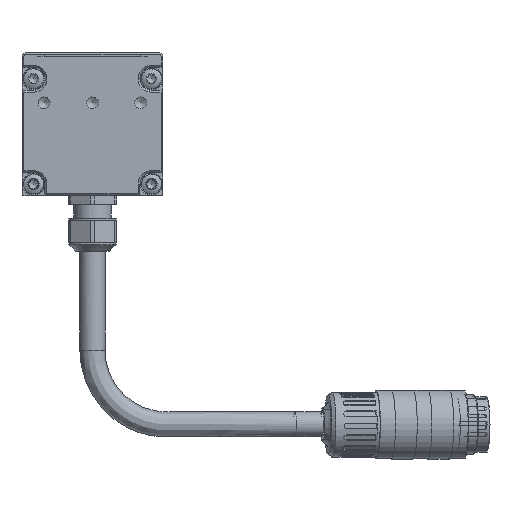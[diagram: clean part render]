
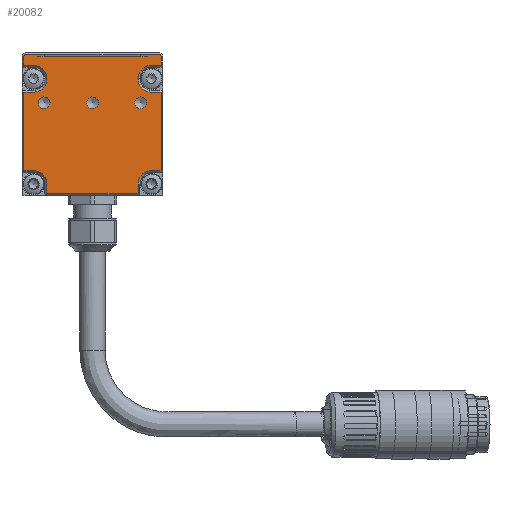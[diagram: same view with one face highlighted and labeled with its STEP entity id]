
A CAD part, left-side view. The second image highlights one B-rep face of the part: STEP entity #20082.
In plain terms, the highlighted planar face has unit normal (-1, 0, 0).
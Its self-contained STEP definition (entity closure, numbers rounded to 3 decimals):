
#880=LINE('',#27913,#1882);
#882=LINE('',#27917,#1884);
#886=LINE('',#27925,#1888);
#889=LINE('',#27931,#1891);
#891=LINE('',#27936,#1893);
#895=LINE('',#27944,#1897);
#897=LINE('',#27948,#1899);
#901=LINE('',#27957,#1903);
#903=LINE('',#27962,#1905);
#906=LINE('',#27970,#1908);
#909=LINE('',#27976,#1911);
#912=LINE('',#27984,#1914);
#916=LINE('',#27992,#1918);
#919=LINE('',#27999,#1921);
#1882=VECTOR('',#23214,1000.);
#1884=VECTOR('',#23218,1000.);
#1888=VECTOR('',#23224,1000.);
#1891=VECTOR('',#23229,1000.);
#1893=VECTOR('',#23235,1000.);
#1897=VECTOR('',#23241,1000.);
#1899=VECTOR('',#23247,1000.);
#1903=VECTOR('',#23257,1000.);
#1905=VECTOR('',#23265,1000.);
#1908=VECTOR('',#23274,1000.);
#1911=VECTOR('',#23283,1000.);
#1914=VECTOR('',#23292,1000.);
#1918=VECTOR('',#23302,1000.);
#1921=VECTOR('',#23311,1000.);
#2682=PLANE('',#21147);
#3923=ORIENTED_EDGE('',*,*,#7674,.T.);
#3924=ORIENTED_EDGE('',*,*,#7675,.T.);
#3925=ORIENTED_EDGE('',*,*,#7676,.T.);
#3926=ORIENTED_EDGE('',*,*,#7648,.T.);
#3927=ORIENTED_EDGE('',*,*,#7645,.T.);
#3928=ORIENTED_EDGE('',*,*,#7639,.T.);
#3929=ORIENTED_EDGE('',*,*,#7656,.T.);
#3930=ORIENTED_EDGE('',*,*,#7654,.T.);
#3931=ORIENTED_EDGE('',*,*,#7652,.T.);
#3932=ORIENTED_EDGE('',*,*,#7630,.T.);
#3933=ORIENTED_EDGE('',*,*,#7663,.T.);
#3934=ORIENTED_EDGE('',*,*,#7661,.T.);
#3935=ORIENTED_EDGE('',*,*,#7659,.T.);
#3936=ORIENTED_EDGE('',*,*,#7628,.T.);
#3937=ORIENTED_EDGE('',*,*,#7673,.F.);
#3938=ORIENTED_EDGE('',*,*,#7643,.T.);
#3939=ORIENTED_EDGE('',*,*,#7672,.F.);
#3940=ORIENTED_EDGE('',*,*,#7637,.T.);
#3941=ORIENTED_EDGE('',*,*,#7671,.T.);
#3942=ORIENTED_EDGE('',*,*,#7669,.T.);
#3943=ORIENTED_EDGE('',*,*,#7667,.T.);
#3944=ORIENTED_EDGE('',*,*,#7634,.T.);
#3945=ORIENTED_EDGE('',*,*,#7650,.T.);
#7628=EDGE_CURVE('',#9566,#9567,#880,.T.);
#7630=EDGE_CURVE('',#9569,#9568,#882,.T.);
#7634=EDGE_CURVE('',#9570,#9571,#886,.T.);
#7637=EDGE_CURVE('',#9572,#9573,#889,.T.);
#7639=EDGE_CURVE('',#9575,#9574,#891,.T.);
#7643=EDGE_CURVE('',#9576,#9577,#895,.T.);
#7645=EDGE_CURVE('',#9578,#9575,#897,.T.);
#7648=EDGE_CURVE('',#9579,#9578,#10697,.T.);
#7650=EDGE_CURVE('',#9571,#9579,#901,.T.);
#7652=EDGE_CURVE('',#9580,#9569,#903,.T.);
#7654=EDGE_CURVE('',#9581,#9580,#10698,.T.);
#7656=EDGE_CURVE('',#9574,#9581,#906,.T.);
#7659=EDGE_CURVE('',#9582,#9566,#909,.T.);
#7661=EDGE_CURVE('',#9583,#9582,#10699,.T.);
#7663=EDGE_CURVE('',#9568,#9583,#912,.T.);
#7667=EDGE_CURVE('',#9584,#9570,#916,.T.);
#7669=EDGE_CURVE('',#9585,#9584,#10700,.T.);
#7671=EDGE_CURVE('',#9573,#9585,#919,.T.);
#7672=EDGE_CURVE('',#9572,#9577,#10701,.T.);
#7673=EDGE_CURVE('',#9576,#9567,#10702,.T.);
#7674=EDGE_CURVE('',#9586,#9586,#10703,.T.);
#7675=EDGE_CURVE('',#9587,#9587,#10704,.T.);
#7676=EDGE_CURVE('',#9588,#9588,#10705,.T.);
#9566=VERTEX_POINT('',#27910);
#9567=VERTEX_POINT('',#27912);
#9568=VERTEX_POINT('',#27916);
#9569=VERTEX_POINT('',#27918);
#9570=VERTEX_POINT('',#27922);
#9571=VERTEX_POINT('',#27924);
#9572=VERTEX_POINT('',#27928);
#9573=VERTEX_POINT('',#27930);
#9574=VERTEX_POINT('',#27935);
#9575=VERTEX_POINT('',#27937);
#9576=VERTEX_POINT('',#27941);
#9577=VERTEX_POINT('',#27943);
#9578=VERTEX_POINT('',#27949);
#9579=VERTEX_POINT('',#27953);
#9580=VERTEX_POINT('',#27963);
#9581=VERTEX_POINT('',#27967);
#9582=VERTEX_POINT('',#27977);
#9583=VERTEX_POINT('',#27981);
#9584=VERTEX_POINT('',#27991);
#9585=VERTEX_POINT('',#27995);
#9586=VERTEX_POINT('',#28007);
#9587=VERTEX_POINT('',#28009);
#9588=VERTEX_POINT('',#28011);
#10697=CIRCLE('',#21122,3.6);
#10698=CIRCLE('',#21128,3.6);
#10699=CIRCLE('',#21134,3.6);
#10700=CIRCLE('',#21140,3.6);
#10701=CIRCLE('',#21144,0.5);
#10702=CIRCLE('',#21146,0.5);
#10703=CIRCLE('',#21148,1.621);
#10704=CIRCLE('',#21149,1.621);
#10705=CIRCLE('',#21150,1.621);
#11388=EDGE_LOOP('',(#3923));
#11389=EDGE_LOOP('',(#3924));
#11390=EDGE_LOOP('',(#3925));
#11391=EDGE_LOOP('',(#3926,#3927,#3928,#3929,#3930,#3931,#3932,#3933,#3934,
#3935,#3936,#3937,#3938,#3939,#3940,#3941,#3942,#3943,#3944,#3945));
#12478=FACE_BOUND('',#11388,.T.);
#12479=FACE_BOUND('',#11389,.T.);
#12480=FACE_BOUND('',#11390,.T.);
#12481=FACE_BOUND('',#11391,.T.);
#20082=ADVANCED_FACE('',(#12478,#12479,#12480,#12481),#2682,.F.);
#21122=AXIS2_PLACEMENT_3D('',#27954,#23252,#23253);
#21128=AXIS2_PLACEMENT_3D('',#27966,#23269,#23270);
#21134=AXIS2_PLACEMENT_3D('',#27980,#23287,#23288);
#21140=AXIS2_PLACEMENT_3D('',#27996,#23306,#23307);
#21144=AXIS2_PLACEMENT_3D('',#28002,#23316,#23317);
#21146=AXIS2_PLACEMENT_3D('',#28004,#23320,#23321);
#21147=AXIS2_PLACEMENT_3D('',#28005,#23322,#23323);
#21148=AXIS2_PLACEMENT_3D('',#28006,#23324,#23325);
#21149=AXIS2_PLACEMENT_3D('',#28008,#23326,#23327);
#21150=AXIS2_PLACEMENT_3D('',#28010,#23328,#23329);
#23214=DIRECTION('',(0.,0.,1.));
#23218=DIRECTION('',(0.,0.,1.));
#23224=DIRECTION('',(0.,0.,-1.));
#23229=DIRECTION('',(0.,0.,-1.));
#23235=DIRECTION('',(0.,-1.,0.));
#23241=DIRECTION('',(0.,1.,0.));
#23247=DIRECTION('',(0.,0.,-1.));
#23252=DIRECTION('',(1.,0.,0.));
#23253=DIRECTION('',(0.,1.,0.));
#23257=DIRECTION('',(0.,-1.,0.));
#23265=DIRECTION('',(0.,-1.,0.));
#23269=DIRECTION('',(1.,0.,0.));
#23270=DIRECTION('',(0.,1.,0.));
#23274=DIRECTION('',(0.,0.,1.));
#23283=DIRECTION('',(0.,-1.,0.));
#23287=DIRECTION('',(1.,0.,0.));
#23288=DIRECTION('',(0.,1.,0.));
#23292=DIRECTION('',(0.,1.,0.));
#23302=DIRECTION('',(0.,1.,0.));
#23306=DIRECTION('',(1.,0.,0.));
#23307=DIRECTION('',(0.,1.,0.));
#23311=DIRECTION('',(0.,-1.,0.));
#23316=DIRECTION('',(1.,0.,0.));
#23317=DIRECTION('',(0.,1.,0.));
#23320=DIRECTION('',(1.,0.,0.));
#23321=DIRECTION('',(0.,1.,0.));
#23322=DIRECTION('',(1.,0.,0.));
#23323=DIRECTION('',(0.,1.,0.));
#23324=DIRECTION('',(1.,0.,0.));
#23325=DIRECTION('',(0.,-1.,0.));
#23326=DIRECTION('',(1.,0.,0.));
#23327=DIRECTION('',(0.,-1.,0.));
#23328=DIRECTION('',(1.,0.,0.));
#23329=DIRECTION('',(0.,-1.,0.));
#27910=CARTESIAN_POINT('',(-1214.998,-18.5,35.119));
#27912=CARTESIAN_POINT('',(-1214.998,-18.5,37.519));
#27913=CARTESIAN_POINT('',(-1214.998,-18.5,0.019));
#27916=CARTESIAN_POINT('',(-1214.998,-18.5,27.919));
#27917=CARTESIAN_POINT('',(-1214.998,-18.5,0.019));
#27918=CARTESIAN_POINT('',(-1214.998,-18.5,6.719));
#27922=CARTESIAN_POINT('',(-1214.998,18.5,27.919));
#27924=CARTESIAN_POINT('',(-1214.998,18.5,6.719));
#27925=CARTESIAN_POINT('',(-1214.998,18.5,0.019));
#27928=CARTESIAN_POINT('',(-1214.998,18.5,37.519));
#27930=CARTESIAN_POINT('',(-1214.998,18.5,35.119));
#27931=CARTESIAN_POINT('',(-1214.998,18.5,0.019));
#27935=CARTESIAN_POINT('',(-1214.998,-12.3,0.519));
#27936=CARTESIAN_POINT('',(-1214.998,-12.3,0.519));
#27937=CARTESIAN_POINT('',(-1214.998,12.3,0.519));
#27941=CARTESIAN_POINT('',(-1214.998,-18.,38.019));
#27943=CARTESIAN_POINT('',(-1214.998,18.,38.019));
#27944=CARTESIAN_POINT('',(-1214.998,-19.,38.019));
#27948=CARTESIAN_POINT('',(-1214.998,12.3,0.019));
#27949=CARTESIAN_POINT('',(-1214.998,12.3,3.119));
#27953=CARTESIAN_POINT('',(-1214.998,15.9,6.719));
#27954=CARTESIAN_POINT('',(-1214.998,15.9,3.119));
#27957=CARTESIAN_POINT('',(-1214.998,-19.,6.719));
#27962=CARTESIAN_POINT('',(-1214.998,-19.,6.719));
#27963=CARTESIAN_POINT('',(-1214.998,-15.9,6.719));
#27966=CARTESIAN_POINT('',(-1214.998,-15.9,3.119));
#27967=CARTESIAN_POINT('',(-1214.998,-12.3,3.119));
#27970=CARTESIAN_POINT('',(-1214.998,-12.3,0.019));
#27976=CARTESIAN_POINT('',(-1214.998,-19.,35.119));
#27977=CARTESIAN_POINT('',(-1214.998,-15.9,35.119));
#27980=CARTESIAN_POINT('',(-1214.998,-15.9,31.519));
#27981=CARTESIAN_POINT('',(-1214.998,-15.9,27.919));
#27984=CARTESIAN_POINT('',(-1214.998,-19.,27.919));
#27991=CARTESIAN_POINT('',(-1214.998,15.9,27.919));
#27992=CARTESIAN_POINT('',(-1214.998,-19.,27.919));
#27995=CARTESIAN_POINT('',(-1214.998,15.9,35.119));
#27996=CARTESIAN_POINT('',(-1214.998,15.9,31.519));
#27999=CARTESIAN_POINT('',(-1214.998,-19.,35.119));
#28002=CARTESIAN_POINT('',(-1214.998,18.,37.519));
#28004=CARTESIAN_POINT('',(-1214.998,-18.,37.519));
#28005=CARTESIAN_POINT('',(-1214.998,-19.,0.019));
#28006=CARTESIAN_POINT('',(-1214.998,13.,25.019));
#28007=CARTESIAN_POINT('',(-1214.998,11.379,25.019));
#28008=CARTESIAN_POINT('',(-1214.998,0.,25.019));
#28009=CARTESIAN_POINT('',(-1214.998,-1.621,25.019));
#28010=CARTESIAN_POINT('',(-1214.998,-13.,25.019));
#28011=CARTESIAN_POINT('',(-1214.998,-14.621,25.019));
